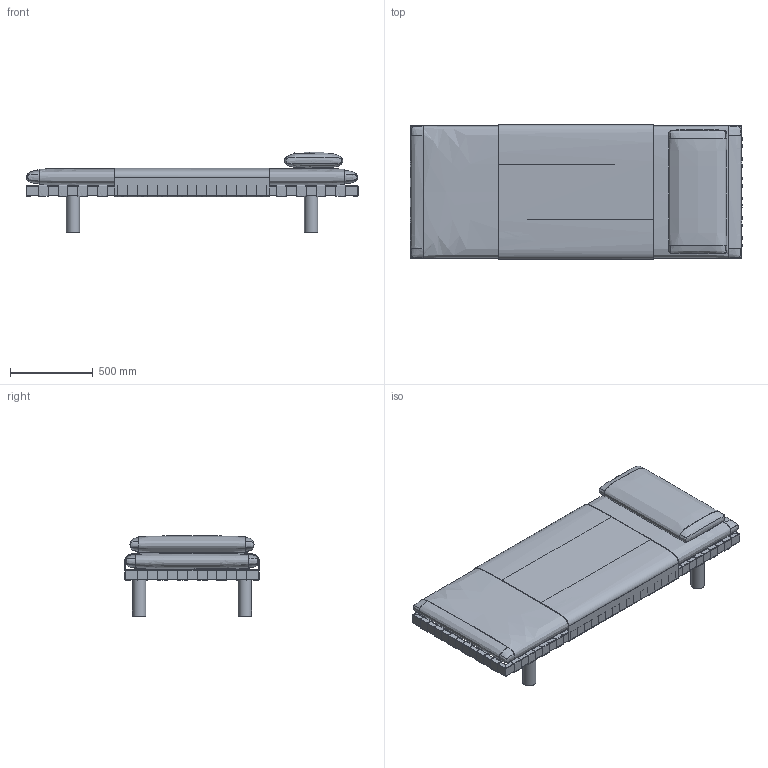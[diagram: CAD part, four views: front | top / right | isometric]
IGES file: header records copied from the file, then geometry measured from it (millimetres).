
Global section: file name: /Volumes/Team/Clients/Pulpo/2015 Daybed/Pilpo_Pallet.igs; native system: Rhinoceros ( Nov 10 2020 ); preprocessor: Trout Lake IGES 012 Nov 10 2020; date: 220929.084337; units: millimetre
Bounding box: 2008 x 812 x 484.19 mm (x, y, z)
Surface area: 11583270.6 mm2 (no closed solid volume)
Topology: 0 solids, 0 shells, 318 faces, 4490 edges, 4484 vertices
Faces by surface type: bspline 318
